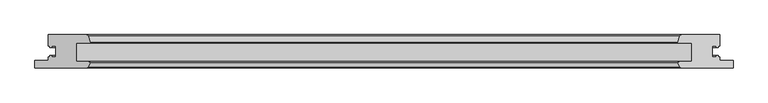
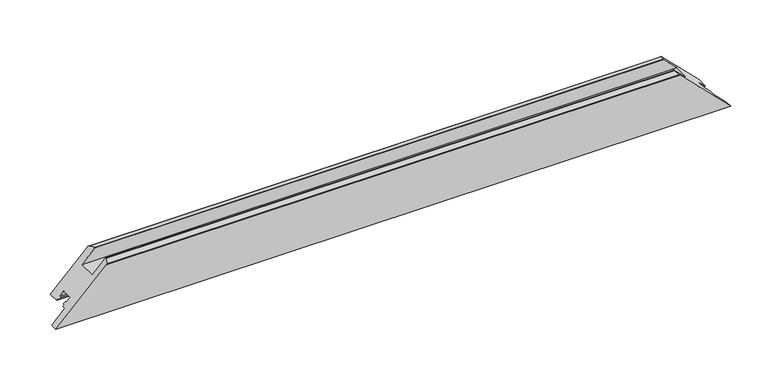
"""IFC4 building model written with IfcOpenShell, lengths in millimetres: proxy geometry, Weiku - Montante - Folha 02.2.01.017 : Weiku - Montante - Folha 02.2.01.017."""

from ifc_helpers import new_model, si_unit, frame, origin, place, context, project, spatial, ellipse_curve, source, transform, mapped, element, save
from ifc_brep_helpers import plane_surface, cylinder_surface, advanced_brep


def generic_models_a6726e4b(model_context):
    return source(origin(), model_context, "Body", "AdvancedBrep", [
        advanced_brep(
        [(-502.0, 50.0, 20.0), (-444.9997332, 50.0, 77.0002668), (444.9997332, 50.0, 77.0002668), (502.0, 50.0, 20.0), (-522.0, 0.0, 0.0), (522.0, 0.0, 0.0), (443.9872264, 0.0, 78.0127736), (-443.9872264, 0.0, 78.0127736), (-502.0, 33.1, 20.0), (-499.8, 33.1, 22.2), (-499.8, 31.1, 22.2), (-497.0, 31.1, 25.0), (-497.0, 33.1, 25.0), (-490.5, 33.1, 31.5), (-490.5, 16.9, 31.5), (-497.0, 16.9, 25.0), (-497.0, 18.9, 25.0), (-499.8, 18.9, 22.2), (-499.8, 16.9, 22.2), (-502.0, 16.9, 20.0), (-502.0, 11.5, 20.0), (-522.0, 11.5, 0.0), (-443.0932657, 0.5518546, 78.9067343), (-439.5512796, 7.617411, 82.4487204), (-440.7134285, 9.5, 81.2865715), (-460.5, 9.5, 61.5), (-460.5, 37.5, 61.5), (-440.0, 37.5, 82.0), (-439.5170371, 38.1294095, 82.4829629), (-442.1019557, 47.7764571, 79.8980443), (442.1019557, 47.7764571, 79.8980443), (439.5170371, 38.1294095, 82.4829629), (440.0, 37.5, 82.0), (460.5, 37.5, 61.5), (460.5, 9.5, 61.5), (440.7134285, 9.5, 81.2865715), (439.5512796, 7.617411, 82.4487204), (443.0932657, 0.5518546, 78.9067343), (522.0, 11.5, 0.0), (502.0, 11.5, 20.0), (502.0, 16.9, 20.0), (499.8, 16.9, 22.2), (499.8, 18.9, 22.2), (497.0, 18.9, 25.0), (497.0, 16.9, 25.0), (490.5, 16.9, 31.5), (490.5, 33.1, 31.5), (497.0, 33.1, 25.0), (497.0, 31.1, 25.0), (499.8, 31.1, 22.2), (499.8, 33.1, 22.2), (502.0, 33.1, 20.0)],
        [
            (0, 1),
            (1, 2),
            (2, 3),
            (3, 0),
            (4, 5),
            (5, 6),
            (6, 7),
            (7, 4),
            (0, 8),
            (8, 9),
            (9, 10),
            (10, 11),
            (11, 12),
            (12, 13),
            (13, 14),
            (14, 15),
            (15, 16),
            (16, 17),
            (17, 18),
            (18, 19),
            (19, 20),
            (20, 21),
            (21, 4),
            (7, 22, ellipse_curve(frame((-443.9872264, 1.0, 78.0127736), z_axis=(-0.7071067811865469, 0.0, 0.7071067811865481), x_axis=(-0.7071067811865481, 0.0, -0.7071067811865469)), 1.4142136, 1.0)),
            (22, 23),
            (23, 24, ellipse_curve(frame((-440.7134285, 8.2, 81.2865715), z_axis=(-0.7071067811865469, 0.0, 0.7071067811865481), x_axis=(-0.7071067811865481, 0.0, -0.7071067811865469)), 1.8384776, 1.3)),
            (24, 25),
            (25, 26),
            (26, 27),
            (27, 28, ellipse_curve(frame((-440.0, 38.0, 82.0), z_axis=(-0.7071067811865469, 0.0, 0.7071067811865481), x_axis=(-0.7071067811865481, 0.0, -0.7071067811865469)), 0.7071068, 0.5)),
            (28, 29),
            (29, 1, ellipse_curve(frame((-444.9997332, 47.0, 77.0002668), z_axis=(-0.7071067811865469, 0.0, 0.7071067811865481), x_axis=(-0.7071067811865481, 0.0, -0.7071067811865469)), 4.2426407, 3.0)),
            (2, 30, ellipse_curve(frame((444.9997332, 47.0, 77.0002668), z_axis=(0.7071067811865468, 0.0, 0.7071067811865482), x_axis=(-0.7071067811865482, 0.0, 0.7071067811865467)), 4.2426407, 3.0)),
            (30, 31),
            (31, 32, ellipse_curve(frame((440.0, 38.0, 82.0), z_axis=(0.7071067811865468, 0.0, 0.7071067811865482), x_axis=(-0.7071067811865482, 0.0, 0.7071067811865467)), 0.7071068, 0.5)),
            (32, 33),
            (33, 34),
            (34, 35),
            (35, 36, ellipse_curve(frame((440.7134285, 8.2, 81.2865715), z_axis=(0.7071067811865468, 0.0, 0.7071067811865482), x_axis=(-0.7071067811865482, 0.0, 0.7071067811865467)), 1.8384776, 1.3)),
            (36, 37),
            (37, 6, ellipse_curve(frame((443.9872264, 1.0, 78.0127736), z_axis=(0.7071067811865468, 0.0, 0.7071067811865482), x_axis=(-0.7071067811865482, 0.0, 0.7071067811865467)), 1.4142136, 1.0)),
            (5, 38),
            (38, 39),
            (39, 40),
            (40, 41),
            (41, 42),
            (42, 43),
            (43, 44),
            (44, 45),
            (45, 46),
            (46, 47),
            (47, 48),
            (48, 49),
            (49, 50),
            (50, 51),
            (51, 3),
            (37, 22),
            (36, 23),
            (35, 24),
            (34, 25),
            (33, 26),
            (32, 27),
            (31, 28),
            (30, 29),
            (51, 8),
            (50, 9),
            (49, 10),
            (48, 11),
            (47, 12),
            (46, 13),
            (45, 14),
            (44, 15),
            (43, 16),
            (42, 17),
            (41, 18),
            (40, 19),
            (39, 20),
            (38, 21),
        ],
        [
            plane_surface(frame((-522.0, 50.0, 77.0002668), z_axis=(0.0, 1.0, 0.0), x_axis=(1.0, 0.0, 0.0))),
            plane_surface(frame((-522.0, 0.0, 0.0), z_axis=(0.0, -1.0, 0.0), x_axis=(1.0, 0.0, 0.0))),
            plane_surface(frame((-550.2842712, 0.0, -28.2842712), z_axis=(-0.7071067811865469, 0.0, 0.7071067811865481), x_axis=(0.0, 1.0, 0.0))),
            plane_surface(frame((432.0, 0.0, 90.0), z_axis=(0.7071067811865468, 0.0, 0.7071067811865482), x_axis=(0.0, 1.0, 0.0))),
            cylinder_surface(frame((-522.0, 1.0, 78.0127736), z_axis=(-1.0, 0.0, 0.0), x_axis=(0.0, 1.0, 0.0)), 1.0),
            plane_surface(frame((-522.0, 0.5518546, 78.9067343), z_axis=(0.0, -0.4481453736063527, 0.8939606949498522), x_axis=(1.0, 0.0, 0.0))),
            cylinder_surface(frame((-522.0, 8.2, 81.2865715), z_axis=(-1.0, 0.0, 0.0), x_axis=(0.0, 1.0, 0.0)), 1.3),
            plane_surface(frame((-522.0, 9.5, 81.2865715), z_axis=(0.0, 1.0, 0.0), x_axis=(1.0, 0.0, 0.0))),
            plane_surface(frame((-522.0, 9.5, 61.5), z_axis=(0.0, 0.0, 1.0), x_axis=(1.0, 0.0, 0.0))),
            plane_surface(frame((-522.0, 37.5, 61.5), z_axis=(0.0, -1.0, 0.0), x_axis=(1.0, 0.0, 0.0))),
            cylinder_surface(frame((-522.0, 38.0, 82.0), z_axis=(-1.0, 0.0, 0.0), x_axis=(0.0, 1.0, 0.0)), 0.5),
            plane_surface(frame((-522.0, 38.1294095, 82.4829629), z_axis=(0.0, 0.2588190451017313, 0.9659258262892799), x_axis=(1.0, 0.0, 0.0))),
            cylinder_surface(frame((-522.0, 47.0, 77.0002668), z_axis=(-1.0, 0.0, 0.0), x_axis=(0.0, 1.0, 0.0)), 3.0),
            plane_surface(frame((-522.0, 50.0, 20.0), z_axis=(0.0, 0.0, -1.0), x_axis=(1.0, 0.0, 0.0))),
            plane_surface(frame((-522.0, 33.1, 20.0), z_axis=(0.0, -1.0, 0.0), x_axis=(1.0, 0.0, 0.0))),
            plane_surface(frame((-522.0, 33.1, 22.2), z_axis=(0.0, 0.0, -1.0), x_axis=(1.0, 0.0, 0.0))),
            plane_surface(frame((-522.0, 31.1, 22.2), z_axis=(0.0, -1.0, 0.0), x_axis=(1.0, 0.0, 0.0))),
            plane_surface(frame((-522.0, 31.1, 25.0), z_axis=(0.0, 0.0, 1.0), x_axis=(1.0, 0.0, 0.0))),
            plane_surface(frame((-522.0, 33.1, 25.0), z_axis=(0.0, -1.0, 0.0), x_axis=(1.0, 0.0, 0.0))),
            plane_surface(frame((-522.0, 33.1, 31.5), z_axis=(0.0, 0.0, -1.0), x_axis=(1.0, 0.0, 0.0))),
            plane_surface(frame((-522.0, 16.9, 31.5), z_axis=(0.0, 1.0, 0.0), x_axis=(1.0, 0.0, 0.0))),
            plane_surface(frame((-522.0, 16.9, 25.0), z_axis=(0.0, 0.0, 1.0), x_axis=(1.0, 0.0, 0.0))),
            plane_surface(frame((-522.0, 18.9, 25.0), z_axis=(0.0, 1.0, 0.0), x_axis=(1.0, 0.0, 0.0))),
            plane_surface(frame((-522.0, 18.9, 22.2), z_axis=(0.0, 0.0, -1.0), x_axis=(1.0, 0.0, 0.0))),
            plane_surface(frame((-522.0, 16.9, 22.2), z_axis=(0.0, 1.0, 0.0), x_axis=(1.0, 0.0, 0.0))),
            plane_surface(frame((-522.0, 16.9, 20.0), z_axis=(0.0, 0.0, -1.0), x_axis=(1.0, 0.0, 0.0))),
            plane_surface(frame((-522.0, 11.5, 20.0), z_axis=(0.0, 1.0, 0.0), x_axis=(1.0, 0.0, 0.0))),
            plane_surface(frame((-522.0, 11.5, 0.0), z_axis=(0.0, 0.0, -1.0), x_axis=(1.0, 0.0, 0.0))),
        ],
        [
            (0, [[1, 2, 3, 4]]),
            (1, [[5, 6, 7, 8]]),
            (2, [[-1, 9, 10, 11, 12, 13, 14, 15, 16, 17, 18, 19, 20, 21, 22, 23, -8, 24, 25, 26, 27, 28, 29, 30, 31, 32]]),
            (3, [[-3, 33, 34, 35, 36, 37, 38, 39, 40, 41, -6, 42, 43, 44, 45, 46, 47, 48, 49, 50, 51, 52, 53, 54, 55, 56]]),
            (4, [[-24, -7, -41, 57]]),
            (5, [[-25, -57, -40, 58]]),
            (6, [[-26, -58, -39, 59]]),
            (7, [[-27, -59, -38, 60]]),
            (8, [[-28, -60, -37, 61]]),
            (9, [[-29, -61, -36, 62]]),
            (10, [[-30, -62, -35, 63]]),
            (11, [[-31, -63, -34, 64]]),
            (12, [[-32, -64, -33, -2]]),
            (13, [[-9, -4, -56, 65]]),
            (14, [[-10, -65, -55, 66]]),
            (15, [[-11, -66, -54, 67]]),
            (16, [[-12, -67, -53, 68]]),
            (17, [[-13, -68, -52, 69]]),
            (18, [[-14, -69, -51, 70]]),
            (19, [[-15, -70, -50, 71]]),
            (20, [[-16, -71, -49, 72]]),
            (21, [[-17, -72, -48, 73]]),
            (22, [[-18, -73, -47, 74]]),
            (23, [[-19, -74, -46, 75]]),
            (24, [[-20, -75, -45, 76]]),
            (25, [[-21, -76, -44, 77]]),
            (26, [[78, -22, -77, -43]]),
            (27, [[-5, -23, -78, -42]]),
        ],
    ),
    ])


if __name__ == "__main__":
    model = new_model("IFC4")
    model_context = context("Model", 3, world=origin())
    ifc_project = project(units=[si_unit("LENGTHUNIT", "METRE", prefix="MILLI")], contexts=[model_context])
    site = spatial("IfcSite", under=ifc_project)
    building = spatial("IfcBuilding", under=site)
    placement = place(None, origin())
    generic_models_shape = generic_models_a6726e4b(model_context)
    element("IfcBuildingElementProxy", 1, Name="Weiku - Montante - Folha 02.2.01.017 : Weiku - Montante - Folha 02.2.01.017", ObjectType="Weiku - Montante - Folha 02.2.01.017 : Weiku - Montante - Folha 02.2.01.017", at=placement, inside=building, context=model_context, shape_type="MappedRepresentation", body=[
        mapped(generic_models_shape, transform((0.0, 0.0, 0.0), x_axis=(1.0, 0.0, 0.0), y_axis=(0.0, 1.0, 0.0), z_axis=(0.0, 0.0, 1.0))),
    ])
    save(model, "model.ifc")
